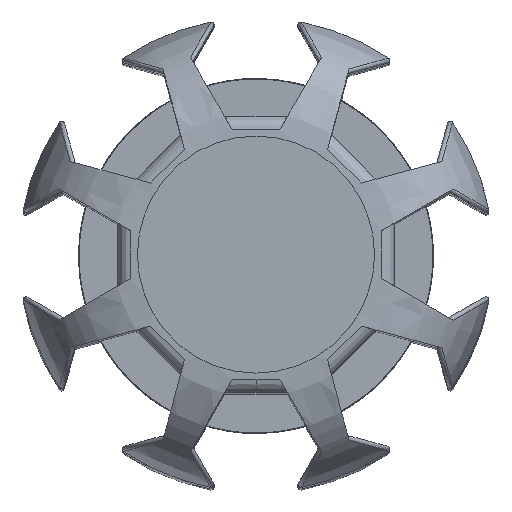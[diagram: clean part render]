
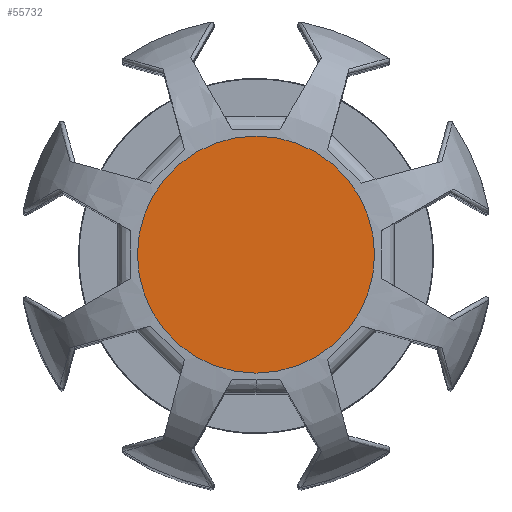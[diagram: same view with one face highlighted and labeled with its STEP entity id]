
A CAD part, top view. The second image highlights one B-rep face of the part: STEP entity #55732.
In plain terms, the highlighted planar face has unit normal (0, 0, 1).
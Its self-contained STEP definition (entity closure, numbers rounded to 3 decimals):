
#4070 = SURFACE_OF_REVOLUTION('',#4071,#4076);
#4071 = CIRCLE('',#4072,5.);
#4072 = AXIS2_PLACEMENT_3D('',#4073,#4074,#4075);
#4073 = CARTESIAN_POINT('',(0.,-5.,91.5));
#4074 = DIRECTION('',(1.,0.,0.));
#4075 = DIRECTION('',(0.,1.,0.));
#4076 = AXIS1_PLACEMENT('',#4077,#4078);
#4077 = CARTESIAN_POINT('',(0.,0.,0.));
#4078 = DIRECTION('',(0.,0.,1.));
#25462 = VERTEX_POINT('',#25463);
#25463 = CARTESIAN_POINT('',(0.,-5.,96.5));
#25485 = EDGE_CURVE('',#25462,#25462,#25486,.T.);
#25486 = SURFACE_CURVE('',#25487,(#25492,#25499),.PCURVE_S1.);
#25487 = CIRCLE('',#25488,5.);
#25488 = AXIS2_PLACEMENT_3D('',#25489,#25490,#25491);
#25489 = CARTESIAN_POINT('',(0.,0.,96.5));
#25490 = DIRECTION('',(0.,0.,1.));
#25491 = DIRECTION('',(0.,-1.,0.));
#25492 = PCURVE('',#4070,#25493);
#25493 = DEFINITIONAL_REPRESENTATION('',(#25494),#25498);
#25494 = LINE('',#25495,#25496);
#25495 = CARTESIAN_POINT('',(0.,1.571));
#25496 = VECTOR('',#25497,1.);
#25497 = DIRECTION('',(1.,0.));
#25498 = ( GEOMETRIC_REPRESENTATION_CONTEXT(2) 
PARAMETRIC_REPRESENTATION_CONTEXT() REPRESENTATION_CONTEXT('2D SPACE',''
  ) );
#25499 = PCURVE('',#25500,#25505);
#25500 = PLANE('',#25501);
#25501 = AXIS2_PLACEMENT_3D('',#25502,#25503,#25504);
#25502 = CARTESIAN_POINT('',(0.,0.,96.5));
#25503 = DIRECTION('',(0.,0.,-1.));
#25504 = DIRECTION('',(0.,1.,0.));
#25505 = DEFINITIONAL_REPRESENTATION('',(#25506),#25514);
#25506 = ( BOUNDED_CURVE() B_SPLINE_CURVE(2,(#25507,#25508,#25509,#25510
    ,#25511,#25512,#25513),.UNSPECIFIED.,.T.,.F.) 
B_SPLINE_CURVE_WITH_KNOTS((1,2,2,2,2,1),(-2.094,0.,
    2.094,4.189,6.283,8.378),
.UNSPECIFIED.) CURVE() GEOMETRIC_REPRESENTATION_ITEM() 
RATIONAL_B_SPLINE_CURVE((1.,0.5,1.,0.5,1.,0.5,1.)) REPRESENTATION_ITEM(
  '') );
#25507 = CARTESIAN_POINT('',(-5.,0.));
#25508 = CARTESIAN_POINT('',(-5.,8.66));
#25509 = CARTESIAN_POINT('',(2.5,4.33));
#25510 = CARTESIAN_POINT('',(10.,0.));
#25511 = CARTESIAN_POINT('',(2.5,-4.33));
#25512 = CARTESIAN_POINT('',(-5.,-8.66));
#25513 = CARTESIAN_POINT('',(-5.,0.));
#25514 = ( GEOMETRIC_REPRESENTATION_CONTEXT(2) 
PARAMETRIC_REPRESENTATION_CONTEXT() REPRESENTATION_CONTEXT('2D SPACE',''
  ) );
#55732 = ADVANCED_FACE('',(#55733),#25500,.F.);
#55733 = FACE_BOUND('',#55734,.T.);
#55734 = EDGE_LOOP('',(#55735));
#55735 = ORIENTED_EDGE('',*,*,#25485,.T.);
